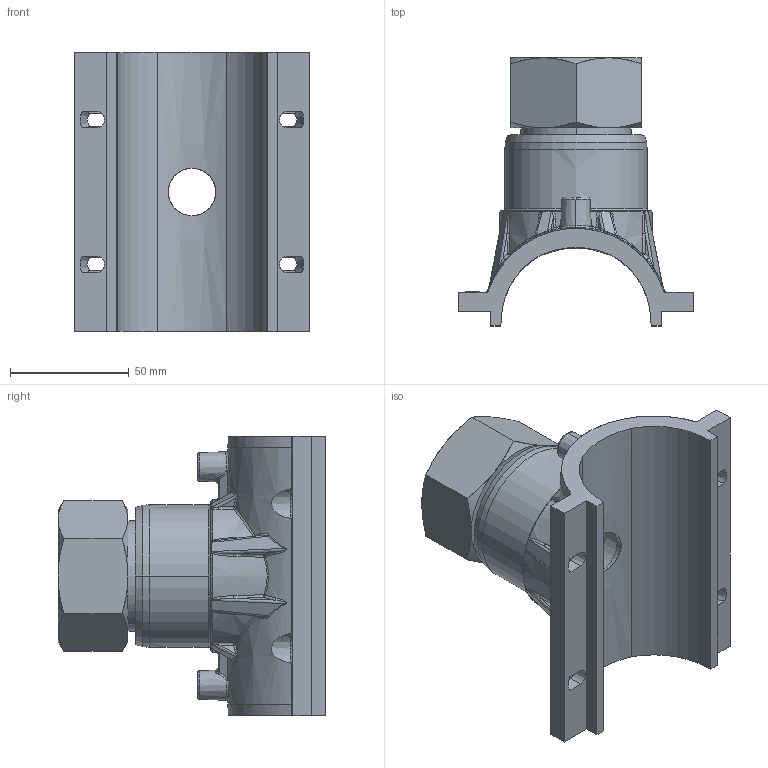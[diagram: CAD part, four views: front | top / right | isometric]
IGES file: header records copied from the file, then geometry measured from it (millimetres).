
Start section:  PTC IGES file: vam-rg_d063_1_1_2_01.igs
Global section: file name: vam-rg_d063_1_1_2_01.igs; native system: Pro/ENGINEER by Parametric Technology Corporation; preprocessor: 2011490; author: mtunjic; organization: Unknown; date: 20130909.104401; units: millimetre
Bounding box: 99 x 113 x 118 mm (x, y, z)
Surface area: 66498.5 mm2 (no closed solid volume)
Topology: 0 solids, 0 shells, 524 faces, 2552 edges, 2552 vertices
Faces by surface type: bspline 524
